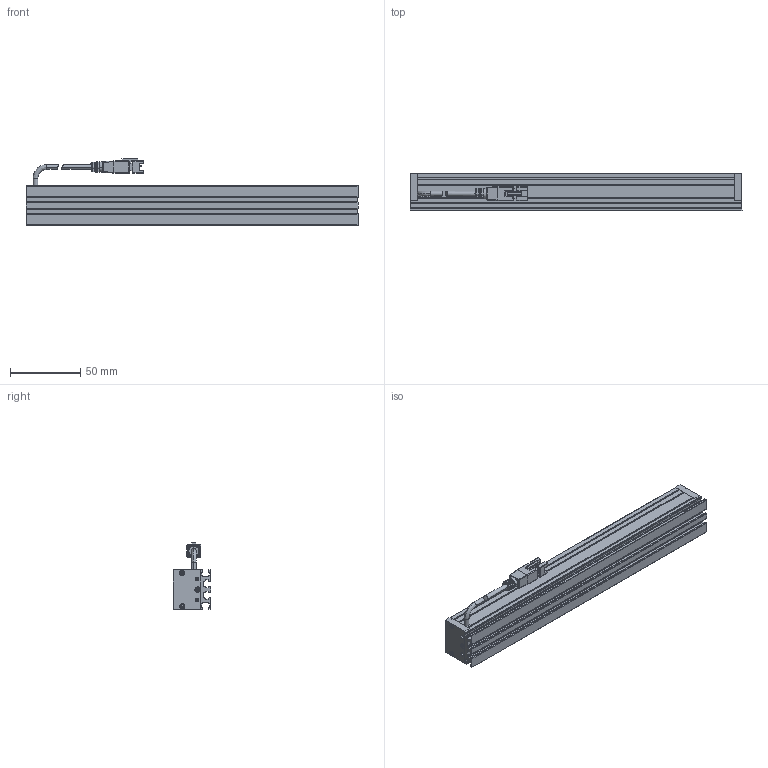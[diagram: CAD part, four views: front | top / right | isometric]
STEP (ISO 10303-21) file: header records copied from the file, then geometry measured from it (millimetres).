
FILE_DESCRIPTION (( 'STEP AP203' ), '1' );
FILE_NAME ('CK-BL23728.STEP', '2026-01-02T02:57:00', ( '' ), ( '' ), 'SwSTEP 2.0', 'SolidWorks 2022', '' );
FILE_SCHEMA (( 'CONFIG_CONTROL_DESIGN' ));
Length unit declared in the file: millimetre
Products named in the file (7): CK-BL23728-002A; CK-BL23728-001A; 光源线-01; 十字沉头螺丝 M2x10; CK-BL23728-003A; CK-BL23728; CK-BL23728-004A
Assembly tree (12 placements, depth 2):
  CK-BL23728
    CK-BL23728-001A
    CK-BL23728-002A  x2
    CK-BL23728-003A
    CK-BL23728-004A
    光源线-01
    十字沉头螺丝 M2x10  x6
Bounding box: 237 x 27 x 47.34 mm (x, y, z)
Volume: 90483.3 mm3; surface area: 84260.5 mm2
Topology: 14 solids, 14 shells, 947 faces, 2382 edges, 1542 vertices
Faces by surface type: plane 705, cylinder 176, cone 46, bspline 20
Entity records: 24642 total; most frequent: CARTESIAN_POINT 4635, ORIENTED_EDGE 3978, DIRECTION 3805, EDGE_CURVE 1989, VECTOR 1661, LINE 1661, VERTEX_POINT 1306, AXIS2_PLACEMENT_3D 1072
